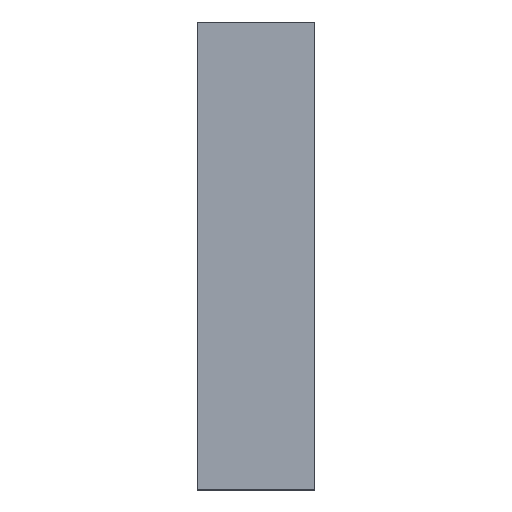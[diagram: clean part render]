
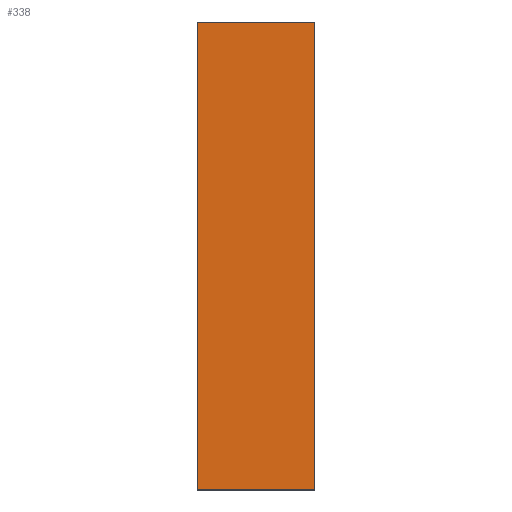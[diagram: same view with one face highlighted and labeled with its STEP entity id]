
A CAD part, top view. The second image highlights one B-rep face of the part: STEP entity #338.
In plain terms, the highlighted planar face has unit normal (0, 0, 1).
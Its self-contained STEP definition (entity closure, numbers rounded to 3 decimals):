
#24 = VERTEX_POINT('',#25);
#25 = CARTESIAN_POINT('',(22.,-87.5,6.));
#32 = PLANE('',#33);
#33 = AXIS2_PLACEMENT_3D('',#34,#35,#36);
#34 = CARTESIAN_POINT('',(22.,-87.5,0.));
#35 = DIRECTION('',(-0.,1.,-0.));
#36 = DIRECTION('',(1.,0.,0.));
#44 = PLANE('',#45);
#45 = AXIS2_PLACEMENT_3D('',#46,#47,#48);
#46 = CARTESIAN_POINT('',(22.,87.5,0.));
#47 = DIRECTION('',(-1.,-0.,-0.));
#48 = DIRECTION('',(0.,1.,0.));
#56 = EDGE_CURVE('',#24,#57,#59,.T.);
#57 = VERTEX_POINT('',#58);
#58 = CARTESIAN_POINT('',(-22.,-87.5,6.));
#59 = SURFACE_CURVE('',#60,(#64,#71),.PCURVE_S1.);
#60 = LINE('',#61,#62);
#61 = CARTESIAN_POINT('',(22.,-87.5,6.));
#62 = VECTOR('',#63,1.);
#63 = DIRECTION('',(-1.,-0.,-0.));
#64 = PCURVE('',#32,#65);
#65 = DEFINITIONAL_REPRESENTATION('',(#66),#70);
#66 = LINE('',#67,#68);
#67 = CARTESIAN_POINT('',(-0.,-6.));
#68 = VECTOR('',#69,1.);
#69 = DIRECTION('',(-1.,0.));
#70 = ( GEOMETRIC_REPRESENTATION_CONTEXT(2) 
PARAMETRIC_REPRESENTATION_CONTEXT() REPRESENTATION_CONTEXT('2D SPACE',''
  ) );
#71 = PCURVE('',#72,#77);
#72 = PLANE('',#73);
#73 = AXIS2_PLACEMENT_3D('',#74,#75,#76);
#74 = CARTESIAN_POINT('',(0.,0.,6.));
#75 = DIRECTION('',(-0.,-0.,1.));
#76 = DIRECTION('',(1.,0.,0.));
#77 = DEFINITIONAL_REPRESENTATION('',(#78),#82);
#78 = LINE('',#79,#80);
#79 = CARTESIAN_POINT('',(22.,-87.5));
#80 = VECTOR('',#81,1.);
#81 = DIRECTION('',(-1.,0.));
#82 = ( GEOMETRIC_REPRESENTATION_CONTEXT(2) 
PARAMETRIC_REPRESENTATION_CONTEXT() REPRESENTATION_CONTEXT('2D SPACE',''
  ) );
#100 = PLANE('',#101);
#101 = AXIS2_PLACEMENT_3D('',#102,#103,#104);
#102 = CARTESIAN_POINT('',(-22.,-87.5,0.));
#103 = DIRECTION('',(1.,-0.,-0.));
#104 = DIRECTION('',(0.,-1.,0.));
#142 = EDGE_CURVE('',#57,#143,#145,.T.);
#143 = VERTEX_POINT('',#144);
#144 = CARTESIAN_POINT('',(-22.,87.5,6.));
#145 = SURFACE_CURVE('',#146,(#150,#157),.PCURVE_S1.);
#146 = LINE('',#147,#148);
#147 = CARTESIAN_POINT('',(-22.,-87.5,6.));
#148 = VECTOR('',#149,1.);
#149 = DIRECTION('',(-0.,1.,-0.));
#150 = PCURVE('',#100,#151);
#151 = DEFINITIONAL_REPRESENTATION('',(#152),#156);
#152 = LINE('',#153,#154);
#153 = CARTESIAN_POINT('',(-0.,-6.));
#154 = VECTOR('',#155,1.);
#155 = DIRECTION('',(-1.,0.));
#156 = ( GEOMETRIC_REPRESENTATION_CONTEXT(2) 
PARAMETRIC_REPRESENTATION_CONTEXT() REPRESENTATION_CONTEXT('2D SPACE',''
  ) );
#157 = PCURVE('',#72,#158);
#158 = DEFINITIONAL_REPRESENTATION('',(#159),#163);
#159 = LINE('',#160,#161);
#160 = CARTESIAN_POINT('',(-22.,-87.5));
#161 = VECTOR('',#162,1.);
#162 = DIRECTION('',(-0.,1.));
#163 = ( GEOMETRIC_REPRESENTATION_CONTEXT(2) 
PARAMETRIC_REPRESENTATION_CONTEXT() REPRESENTATION_CONTEXT('2D SPACE',''
  ) );
#181 = PLANE('',#182);
#182 = AXIS2_PLACEMENT_3D('',#183,#184,#185);
#183 = CARTESIAN_POINT('',(-22.,87.5,0.));
#184 = DIRECTION('',(-0.,-1.,-0.));
#185 = DIRECTION('',(-1.,0.,0.));
#218 = EDGE_CURVE('',#143,#219,#221,.T.);
#219 = VERTEX_POINT('',#220);
#220 = CARTESIAN_POINT('',(22.,87.5,6.));
#221 = SURFACE_CURVE('',#222,(#226,#233),.PCURVE_S1.);
#222 = LINE('',#223,#224);
#223 = CARTESIAN_POINT('',(-22.,87.5,6.));
#224 = VECTOR('',#225,1.);
#225 = DIRECTION('',(1.,-0.,-0.));
#226 = PCURVE('',#181,#227);
#227 = DEFINITIONAL_REPRESENTATION('',(#228),#232);
#228 = LINE('',#229,#230);
#229 = CARTESIAN_POINT('',(-0.,-6.));
#230 = VECTOR('',#231,1.);
#231 = DIRECTION('',(-1.,0.));
#232 = ( GEOMETRIC_REPRESENTATION_CONTEXT(2) 
PARAMETRIC_REPRESENTATION_CONTEXT() REPRESENTATION_CONTEXT('2D SPACE',''
  ) );
#233 = PCURVE('',#72,#234);
#234 = DEFINITIONAL_REPRESENTATION('',(#235),#239);
#235 = LINE('',#236,#237);
#236 = CARTESIAN_POINT('',(-22.,87.5));
#237 = VECTOR('',#238,1.);
#238 = DIRECTION('',(1.,-0.));
#239 = ( GEOMETRIC_REPRESENTATION_CONTEXT(2) 
PARAMETRIC_REPRESENTATION_CONTEXT() REPRESENTATION_CONTEXT('2D SPACE',''
  ) );
#289 = EDGE_CURVE('',#219,#24,#290,.T.);
#290 = SURFACE_CURVE('',#291,(#295,#302),.PCURVE_S1.);
#291 = LINE('',#292,#293);
#292 = CARTESIAN_POINT('',(22.,87.5,6.));
#293 = VECTOR('',#294,1.);
#294 = DIRECTION('',(-0.,-1.,-0.));
#295 = PCURVE('',#44,#296);
#296 = DEFINITIONAL_REPRESENTATION('',(#297),#301);
#297 = LINE('',#298,#299);
#298 = CARTESIAN_POINT('',(-0.,-6.));
#299 = VECTOR('',#300,1.);
#300 = DIRECTION('',(-1.,0.));
#301 = ( GEOMETRIC_REPRESENTATION_CONTEXT(2) 
PARAMETRIC_REPRESENTATION_CONTEXT() REPRESENTATION_CONTEXT('2D SPACE',''
  ) );
#302 = PCURVE('',#72,#303);
#303 = DEFINITIONAL_REPRESENTATION('',(#304),#308);
#304 = LINE('',#305,#306);
#305 = CARTESIAN_POINT('',(22.,87.5));
#306 = VECTOR('',#307,1.);
#307 = DIRECTION('',(-0.,-1.));
#308 = ( GEOMETRIC_REPRESENTATION_CONTEXT(2) 
PARAMETRIC_REPRESENTATION_CONTEXT() REPRESENTATION_CONTEXT('2D SPACE',''
  ) );
#338 = ADVANCED_FACE('',(#339),#72,.T.);
#339 = FACE_BOUND('',#340,.F.);
#340 = EDGE_LOOP('',(#341,#342,#343,#344));
#341 = ORIENTED_EDGE('',*,*,#56,.T.);
#342 = ORIENTED_EDGE('',*,*,#142,.T.);
#343 = ORIENTED_EDGE('',*,*,#218,.T.);
#344 = ORIENTED_EDGE('',*,*,#289,.T.);
